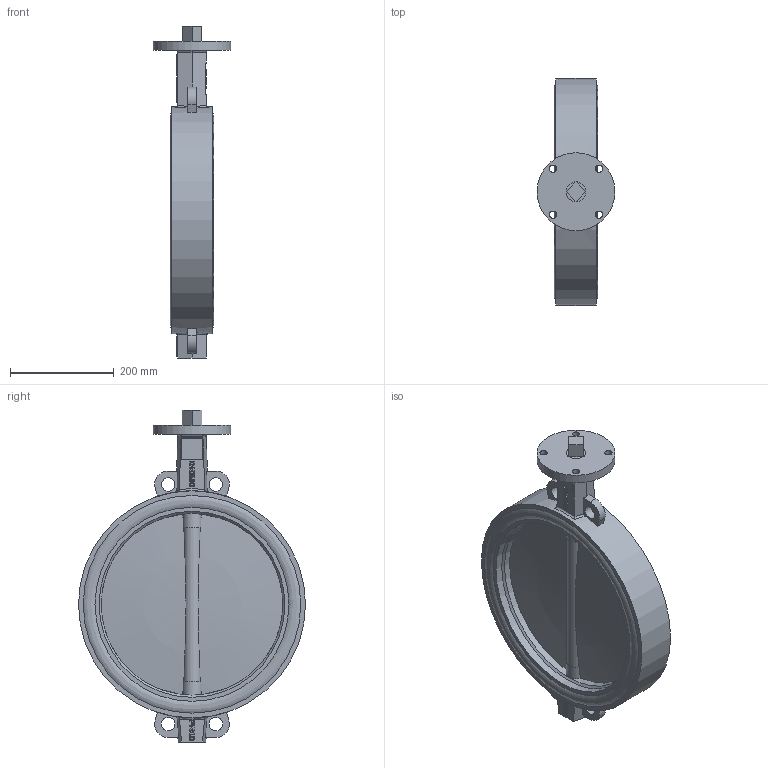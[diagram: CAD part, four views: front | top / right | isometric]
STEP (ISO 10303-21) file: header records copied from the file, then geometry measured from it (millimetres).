
FILE_DESCRIPTION(('STEP AP242'), '1');
FILE_NAME('Ïîâîðîòíûé çàòâîð ïîä ýëåêòðîïðèâîä', '', ('UNSPECIFIED'), ('UNSPECIFIED'), 'C3D Converter', 'C3D Toolkit', '');
FILE_SCHEMA(('AP242_MANAGED_MODEL_BASED_3D_ENGINEERING_MIM_LF { 1 0 10303 442 1 1 4 }'));
Length unit declared in the file: millimetre
Products named in the file (6): П
Assembly tree (6 placements, depth 2):
  (unnamed)
    (unnamed)
    П  x2
    (unnamed)
    (unnamed)
    (unnamed)
Bounding box: 150 x 437 x 639 mm (x, y, z)
Volume: 6971618 mm3; surface area: 1060816.6 mm2
Topology: 6 solids, 6 shells, 422 faces, 1112 edges, 734 vertices
Faces by surface type: plane 190, extrusion 157, cylinder 53, bspline 8, torus 6, cone 4, sphere 4
Full cylindrical faces by diameter (mm): 11.421 x1, 14 x4, 26 x4, 27 x6, 37.05 x4, 38.184 x5, 150 x1, 350 x1, 357.8 x2, 373.4 x2, 396.1 x4, 418.8 x4, 437 x1
Entity records: 18364 total; most frequent: CARTESIAN_POINT 6394, ORIENTED_EDGE 2116, DIRECTION 1460, EDGE_CURVE 1058, VERTEX_POINT 729, VECTOR 702, LINE 545, EDGE_LOOP 527
